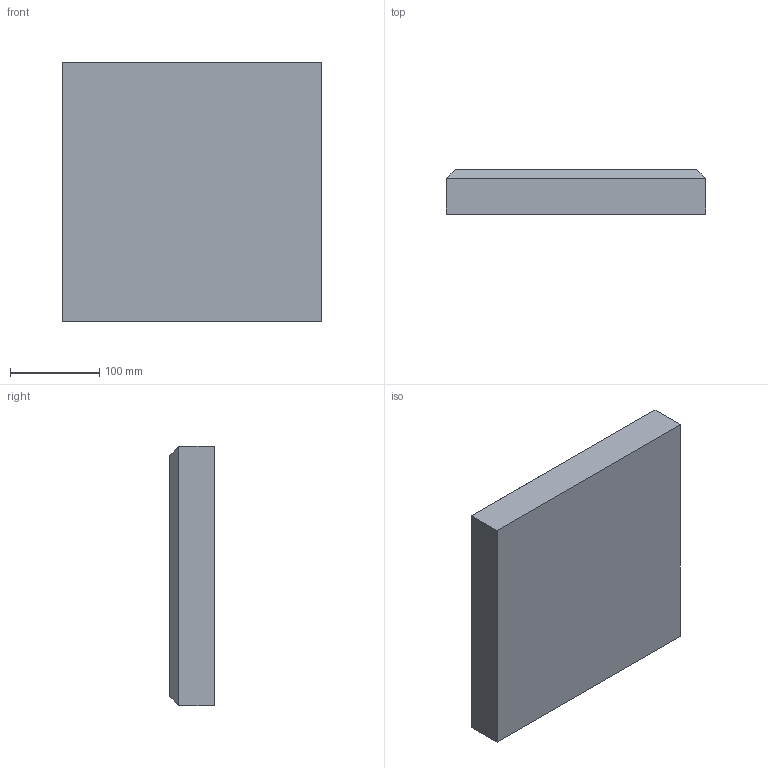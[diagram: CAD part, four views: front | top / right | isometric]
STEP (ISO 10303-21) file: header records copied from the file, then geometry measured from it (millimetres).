
FILE_DESCRIPTION (( 'STEP AP214' ), '1' );
FILE_NAME ('Pixel_50.STEP', '2016-06-08T07:31:27', ( '' ), ( '' ), 'SwSTEP 2.0', 'SolidWorks 2014', '' );
FILE_SCHEMA (( 'AUTOMOTIVE_DESIGN' ));
Length unit declared in the file: millimetre
Products named in the file (1): Pixel_50
Bounding box: 290 x 50 x 290 mm (x, y, z)
Volume: 4148333.3 mm3; surface area: 219239.2 mm2
Topology: 1 solids, 1 shells, 10 faces, 20 edges, 12 vertices
Faces by surface type: plane 10
Entity records: 286 total; most frequent: CARTESIAN_POINT 43, DIRECTION 42, ORIENTED_EDGE 40, VECTOR 20, LINE 20, EDGE_CURVE 20, VERTEX_POINT 12, AXIS2_PLACEMENT_3D 11
